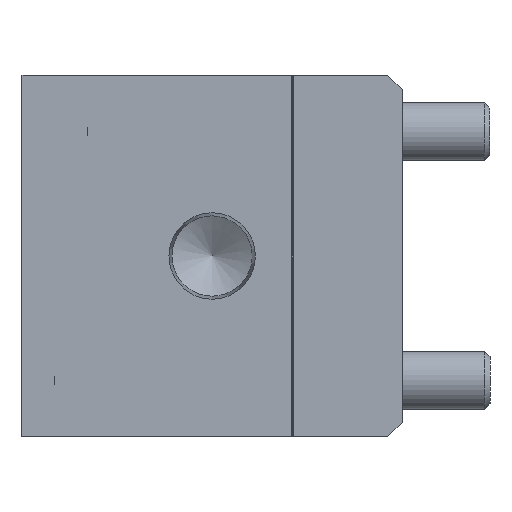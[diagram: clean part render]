
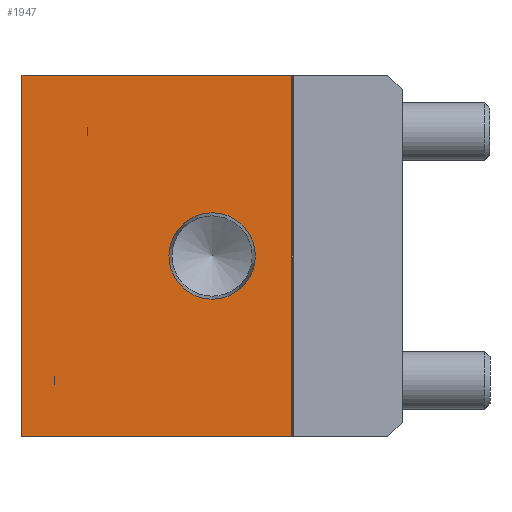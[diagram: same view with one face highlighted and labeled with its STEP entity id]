
A CAD part, left-side view. The second image highlights one B-rep face of the part: STEP entity #1947.
In plain terms, the highlighted planar face has unit normal (-1, 0, 0).
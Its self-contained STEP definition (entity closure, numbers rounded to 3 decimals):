
#1947 = ADVANCED_FACE( '', ( #4091, #4092 ), #4093, .F. );
#4091 = FACE_BOUND( '', #6296, .T. );
#4092 = FACE_OUTER_BOUND( '', #6297, .T. );
#4093 = PLANE( '', #6298 );
#6296 = EDGE_LOOP( '', ( #10851 ) );
#6297 = EDGE_LOOP( '', ( #10852, #10853, #10854, #10855 ) );
#6298 = AXIS2_PLACEMENT_3D( '', #10856, #10857, #10858 );
#10851 = ORIENTED_EDGE( '', *, *, #13128, .T. );
#10852 = ORIENTED_EDGE( '', *, *, #13049, .F. );
#10853 = ORIENTED_EDGE( '', *, *, #12973, .F. );
#10854 = ORIENTED_EDGE( '', *, *, #12798, .T. );
#10855 = ORIENTED_EDGE( '', *, *, #12728, .T. );
#10856 = CARTESIAN_POINT( '', ( 0., 52., 24.75 ) );
#10857 = DIRECTION( '', ( 1., 0., 0. ) );
#10858 = DIRECTION( '', ( 0., 0., -1. ) );
#12728 = EDGE_CURVE( '', #15237, #15239, #15241, .T. );
#12798 = EDGE_CURVE( '', #15331, #15237, #15332, .T. );
#12973 = EDGE_CURVE( '', #15331, #14925, #15541, .T. );
#13049 = EDGE_CURVE( '', #14925, #15239, #15631, .T. );
#13128 = EDGE_CURVE( '', #15722, #15722, #15723, .T. );
#14925 = VERTEX_POINT( '', #18030 );
#15237 = VERTEX_POINT( '', #18437 );
#15239 = VERTEX_POINT( '', #18440 );
#15241 = LINE( '', #18443, #18444 );
#15331 = VERTEX_POINT( '', #18565 );
#15332 = LINE( '', #18566, #18567 );
#15541 = LINE( '', #18827, #18828 );
#15631 = LINE( '', #18942, #18943 );
#15722 = VERTEX_POINT( '', #19065 );
#15723 = CIRCLE( '', #19066, 5.91 );
#18030 = CARTESIAN_POINT( '', ( 0., 15.1, 24.75 ) );
#18437 = CARTESIAN_POINT( '', ( 0., 52., -24.75 ) );
#18440 = CARTESIAN_POINT( '', ( 0., 15.1, -24.75 ) );
#18443 = CARTESIAN_POINT( '', ( 0., 52., -24.75 ) );
#18444 = VECTOR( '', #20854, 1000. );
#18565 = CARTESIAN_POINT( '', ( 0., 52., 24.75 ) );
#18566 = CARTESIAN_POINT( '', ( 0., 52., 24.75 ) );
#18567 = VECTOR( '', #20922, 1000. );
#18827 = CARTESIAN_POINT( '', ( 0., 52., 24.75 ) );
#18828 = VECTOR( '', #21121, 1000. );
#18942 = CARTESIAN_POINT( '', ( 0., 15.1, 24.75 ) );
#18943 = VECTOR( '', #21197, 1000. );
#19065 = CARTESIAN_POINT( '', ( 0., 26., -5.91 ) );
#19066 = AXIS2_PLACEMENT_3D( '', #21253, #21254, #21255 );
#20854 = DIRECTION( '', ( 0., -1., 0. ) );
#20922 = DIRECTION( '', ( 0., 0., -1. ) );
#21121 = DIRECTION( '', ( 0., -1., 0. ) );
#21197 = DIRECTION( '', ( 0., 0., -1. ) );
#21253 = CARTESIAN_POINT( '', ( 0., 26., 0. ) );
#21254 = DIRECTION( '', ( 1., 0., 0. ) );
#21255 = DIRECTION( '', ( 0., 0., -1. ) );
